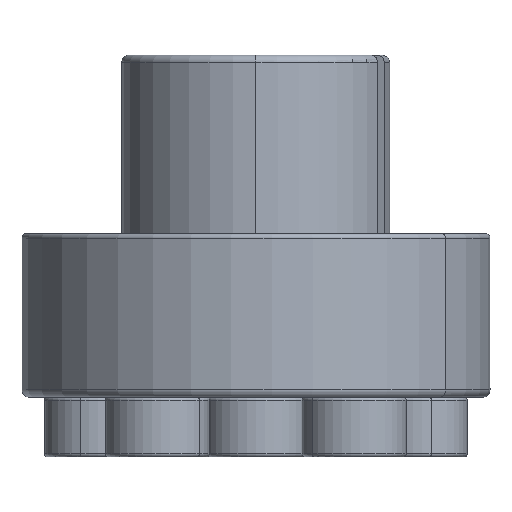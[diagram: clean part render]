
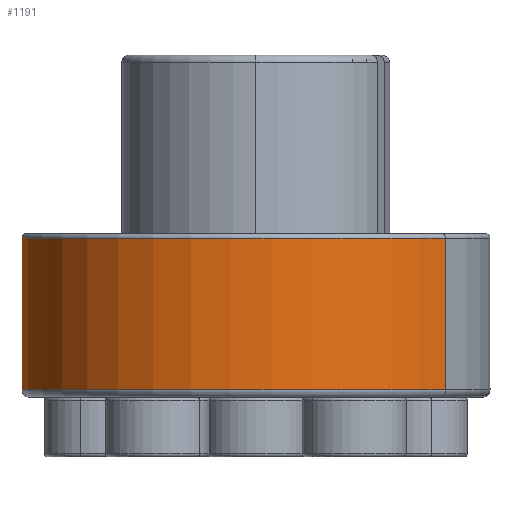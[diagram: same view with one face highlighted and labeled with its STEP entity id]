
A CAD part, front view. The second image highlights one B-rep face of the part: STEP entity #1191.
In plain terms, the highlighted cylindrical face has radius 15.75 mm (diameter 31.5 mm), a partial arc.
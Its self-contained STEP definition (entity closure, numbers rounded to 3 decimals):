
#464 = AXIS2_PLACEMENT_3D ( 'NONE', #620, #621, #622 ) ;
#469 = AXIS2_PLACEMENT_3D ( 'NONE', #643, #644, #645 ) ;
#588 = CARTESIAN_POINT ( 'NONE',  ( 12.742, -9.258, -23.55 ) ) ;
#589 = DIRECTION ( 'NONE',  ( 0., 0., -1. ) ) ;
#620 = CARTESIAN_POINT ( 'NONE',  ( 0., 0., -12.3 ) ) ;
#621 = DIRECTION ( 'NONE',  ( 0., 0., -1. ) ) ;
#622 = DIRECTION ( 'NONE',  ( 0.809, -0.588, 0. ) ) ;
#643 = CARTESIAN_POINT ( 'NONE',  ( 0., 0., -22.5 ) ) ;
#644 = DIRECTION ( 'NONE',  ( 0., 0., -1. ) ) ;
#645 = DIRECTION ( 'NONE',  ( 0.809, -0.588, 0. ) ) ;
#918 = CARTESIAN_POINT ( 'NONE',  ( -12.742, 9.258, -22.5 ) ) ;
#935 = CARTESIAN_POINT ( 'NONE',  ( 12.742, -9.258, -12.3 ) ) ;
#956 = CARTESIAN_POINT ( 'NONE',  ( 12.742, -9.258, -22.5 ) ) ;
#960 = CARTESIAN_POINT ( 'NONE',  ( -12.742, 9.258, -12.3 ) ) ;
#1191 = ADVANCED_FACE ( 'NONE', ( #3842 ), #3849, .T. ) ;
#1676 = DIRECTION ( 'NONE',  ( 0., 0., -1. ) ) ;
#1677 = DIRECTION ( 'NONE',  ( 0.809, -0.588, 0. ) ) ;
#1741 = CARTESIAN_POINT ( 'NONE',  ( 0., 0., -23.55 ) ) ;
#2688 = LINE ( 'NONE', #3348, #2690 ) ;
#2690 = VECTOR ( 'NONE', #3349, 1000. ) ;
#2780 = LINE ( 'NONE', #588, #2783 ) ;
#2783 = VECTOR ( 'NONE', #589, 1000. ) ;
#2797 = CIRCLE ( 'NONE', #464, 15.75 ) ;
#2809 = CIRCLE ( 'NONE', #469, 15.75 ) ;
#3348 = CARTESIAN_POINT ( 'NONE',  ( -12.742, 9.258, -23.55 ) ) ;
#3349 = DIRECTION ( 'NONE',  ( 0., 0., -1. ) ) ;
#3633 = EDGE_CURVE ( 'NONE', #6202, #6160, #2688, .T. ) ;
#3712 = EDGE_CURVE ( 'NONE', #6177, #6198, #2780, .T. ) ;
#3722 = EDGE_CURVE ( 'NONE', #6177, #6202, #2797, .T. ) ;
#3731 = EDGE_CURVE ( 'NONE', #6198, #6160, #2809, .T. ) ;
#3842 = FACE_OUTER_BOUND ( 'NONE', #6302, .T. ) ;
#3849 = CYLINDRICAL_SURFACE ( 'NONE', #4952, 15.75 ) ;
#4952 = AXIS2_PLACEMENT_3D ( 'NONE', #1741, #1676, #1677 ) ;
#5871 = ORIENTED_EDGE ( 'NONE', *, *, #3722, .T. ) ;
#5878 = ORIENTED_EDGE ( 'NONE', *, *, #3731, .F. ) ;
#5879 = ORIENTED_EDGE ( 'NONE', *, *, #3633, .T. ) ;
#5886 = ORIENTED_EDGE ( 'NONE', *, *, #3712, .F. ) ;
#6160 = VERTEX_POINT ( 'NONE', #918 ) ;
#6177 = VERTEX_POINT ( 'NONE', #935 ) ;
#6198 = VERTEX_POINT ( 'NONE', #956 ) ;
#6202 = VERTEX_POINT ( 'NONE', #960 ) ;
#6302 = EDGE_LOOP ( 'NONE', ( #5871, #5879, #5878, #5886 ) ) ;
